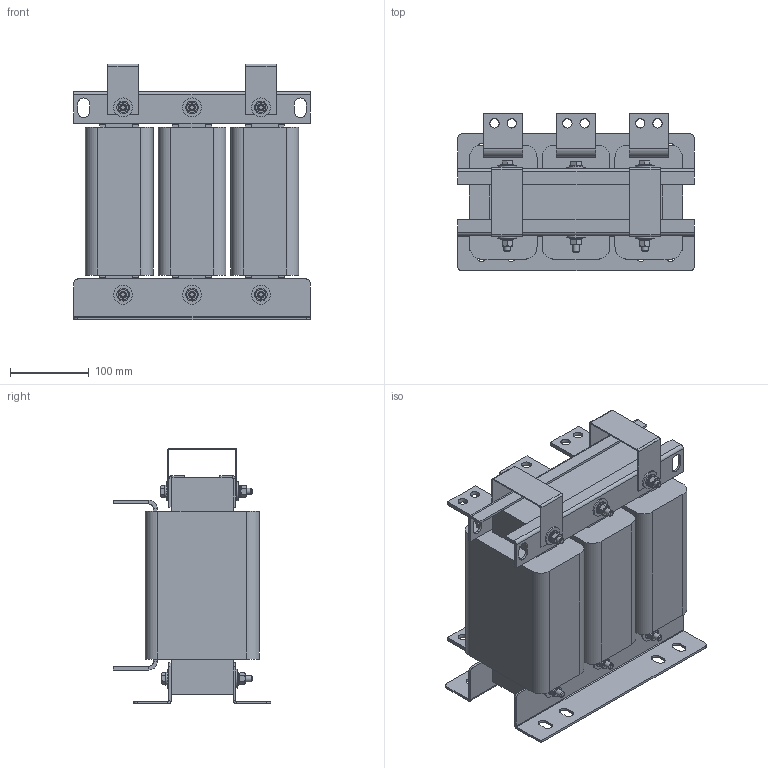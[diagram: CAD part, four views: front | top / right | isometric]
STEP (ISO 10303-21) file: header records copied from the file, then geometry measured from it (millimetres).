
FILE_DESCRIPTION(('STEP AP203'), '1');
FILE_NAME('Ñåòåâîé äðîññåëü _ ISF-280_543-4', '', ('UNSPECIFIED'), ('UNSPECIFIED'), 'C3D Converter', 'C3D Toolkit', '');
FILE_SCHEMA(('CONFIG_CONTROL_DESIGN'));
Length unit declared in the file: millimetre
Products named in the file (16): ISF-280_543-4; DIN 125 (A); DIN 127 (A); DIN 934; ГОСТ 15589-70
Assembly tree (62 placements, depth 3):
  ISF-280_543-4
    ISF-280_543-4
    ISF-280_543-4  x2
    ISF-280_543-4  x3
    ISF-280_543-4  x6
    ISF-280_543-4  x2
    (unnamed)  x12
      (unnamed)
    DIN 125 (A)  x12
      (unnamed)
    DIN 127 (A)  x6
      (unnamed)
    DIN 934  x6
      (unnamed)
    ГОСТ 15589-70  x6
    ISF-280_543-4  x2
Bounding box: 300 x 200 x 325 mm (x, y, z)
Volume: 8734554.1 mm3; surface area: 1016440 mm2
Topology: 59 solids, 59 shells, 684 faces, 1466 edges, 906 vertices
Faces by surface type: plane 404, cylinder 178, cone 96, torus 6
Full cylindrical faces by diameter (mm): 6.647 x6, 8 x28, 8.4 x24, 12 x12, 16 x12, 24 x12
Entity records: 8501 total; most frequent: CARTESIAN_POINT 1773, DIRECTION 1018, ORIENTED_EDGE 834, EDGE_CURVE 417, AXIS2_PLACEMENT_3D 380, VERTEX_POINT 277, EDGE_LOOP 276, LINE 258
